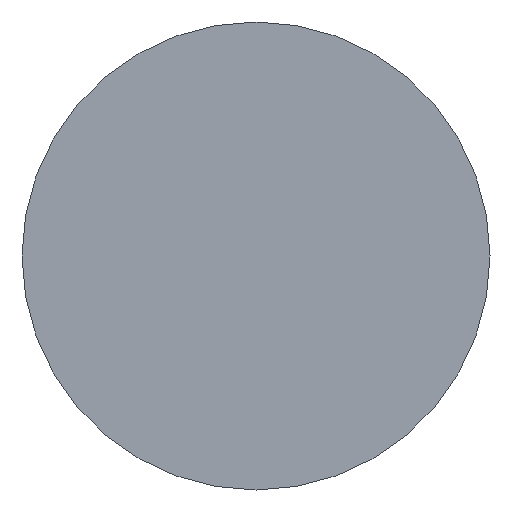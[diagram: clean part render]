
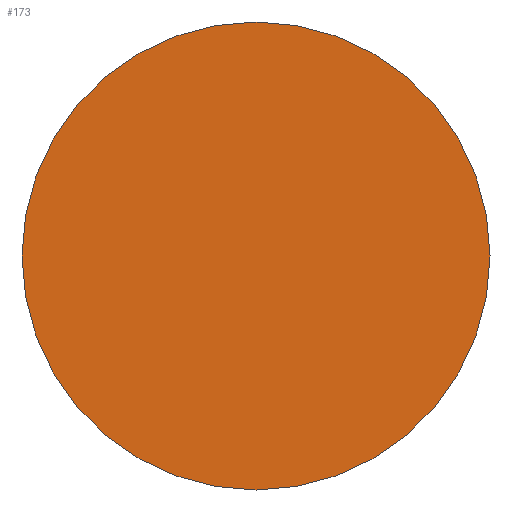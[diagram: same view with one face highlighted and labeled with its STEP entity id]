
A CAD part, left-side view. The second image highlights one B-rep face of the part: STEP entity #173.
In plain terms, the highlighted planar face has unit normal (-1, 0, 0).
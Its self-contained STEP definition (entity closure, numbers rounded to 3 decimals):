
#6 = CARTESIAN_POINT ( 'NONE',  ( 0., 0., 0. ) ) ;
#8 = ORIENTED_EDGE ( 'NONE', *, *, #227, .F. ) ;
#11 = VERTEX_POINT ( 'NONE', #43 ) ;
#12 = VERTEX_POINT ( 'NONE', #269 ) ;
#34 = DIRECTION ( 'NONE',  ( 0., 1., 0. ) ) ;
#38 = AXIS2_PLACEMENT_3D ( 'NONE', #105, #205, #34 ) ;
#43 = CARTESIAN_POINT ( 'NONE',  ( 0., -3., 0. ) ) ;
#66 = EDGE_LOOP ( 'NONE', ( #112, #8 ) ) ;
#72 = CIRCLE ( 'NONE', #38, 3. ) ;
#105 = CARTESIAN_POINT ( 'NONE',  ( 0., 0., 0. ) ) ;
#111 = DIRECTION ( 'NONE',  ( 0., -1., 0. ) ) ;
#112 = ORIENTED_EDGE ( 'NONE', *, *, #257, .F. ) ;
#121 = DIRECTION ( 'NONE',  ( 1., 0., 0. ) ) ;
#132 = AXIS2_PLACEMENT_3D ( 'NONE', #140, #121, #144 ) ;
#140 = CARTESIAN_POINT ( 'NONE',  ( 0., 0., 0. ) ) ;
#144 = DIRECTION ( 'NONE',  ( 0., 1., 0. ) ) ;
#173 = ADVANCED_FACE ( 'NONE', ( #217 ), #183, .T. ) ;
#174 = CIRCLE ( 'NONE', #132, 3. ) ;
#183 = PLANE ( 'NONE',  #222 ) ;
#205 = DIRECTION ( 'NONE',  ( 1., 0., 0. ) ) ;
#217 = FACE_OUTER_BOUND ( 'NONE', #66, .T. ) ;
#219 = DIRECTION ( 'NONE',  ( -1., 0., 0. ) ) ;
#222 = AXIS2_PLACEMENT_3D ( 'NONE', #6, #219, #111 ) ;
#227 = EDGE_CURVE ( 'NONE', #11, #12, #72, .T. ) ;
#257 = EDGE_CURVE ( 'NONE', #12, #11, #174, .T. ) ;
#269 = CARTESIAN_POINT ( 'NONE',  ( 0., 3., 0. ) ) ;
